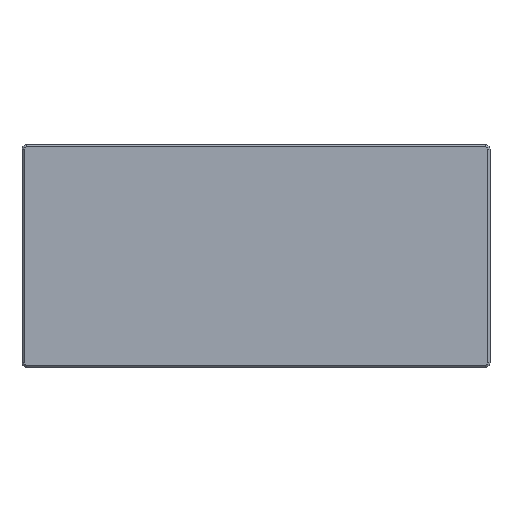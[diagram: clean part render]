
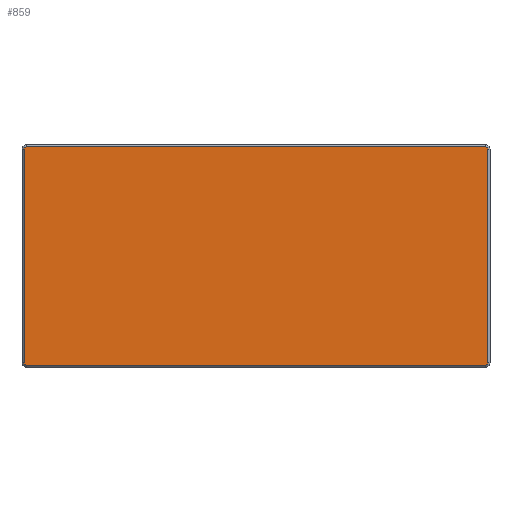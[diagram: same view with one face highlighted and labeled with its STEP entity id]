
A CAD part, front view. The second image highlights one B-rep face of the part: STEP entity #859.
In plain terms, the highlighted planar face has unit normal (0, -1, 0).
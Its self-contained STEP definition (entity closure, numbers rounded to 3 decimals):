
#7 = DIRECTION ( 'NONE',  ( 1., 0., 0. ) ) ;
#13 = DIRECTION ( 'NONE',  ( 0., -1., 0. ) ) ;
#31 = VERTEX_POINT ( 'NONE', #462 ) ;
#40 = ORIENTED_EDGE ( 'NONE', *, *, #134, .T. ) ;
#48 = EDGE_CURVE ( 'NONE', #1475, #105, #2187, .T. ) ;
#56 = VECTOR ( 'NONE', #342, 1000. ) ;
#64 = CARTESIAN_POINT ( 'NONE',  ( 10.4, 0., 4.8 ) ) ;
#105 = VERTEX_POINT ( 'NONE', #1706 ) ;
#134 = EDGE_CURVE ( 'NONE', #2072, #31, #592, .T. ) ;
#136 = EDGE_CURVE ( 'NONE', #514, #492, #143, .T. ) ;
#143 = LINE ( 'NONE', #662, #56 ) ;
#167 = CARTESIAN_POINT ( 'NONE',  ( -10.3, 0., 4.8 ) ) ;
#185 = VECTOR ( 'NONE', #977, 1000. ) ;
#221 = CARTESIAN_POINT ( 'NONE',  ( 10.3, 0., 4.8 ) ) ;
#279 = EDGE_CURVE ( 'NONE', #782, #2072, #743, .T. ) ;
#294 = EDGE_CURVE ( 'NONE', #31, #514, #304, .T. ) ;
#304 = CIRCLE ( 'NONE', #329, 0.1 ) ;
#315 = ORIENTED_EDGE ( 'NONE', *, *, #294, .T. ) ;
#329 = AXIS2_PLACEMENT_3D ( 'NONE', #1238, #13, #1407 ) ;
#342 = DIRECTION ( 'NONE',  ( 0., 0., 1. ) ) ;
#453 = ORIENTED_EDGE ( 'NONE', *, *, #1743, .T. ) ;
#462 = CARTESIAN_POINT ( 'NONE',  ( 10.3, 0., -4.9 ) ) ;
#492 = VERTEX_POINT ( 'NONE', #64 ) ;
#514 = VERTEX_POINT ( 'NONE', #1427 ) ;
#592 = LINE ( 'NONE', #684, #623 ) ;
#623 = VECTOR ( 'NONE', #7, 1000. ) ;
#655 = AXIS2_PLACEMENT_3D ( 'NONE', #167, #829, #837 ) ;
#662 = CARTESIAN_POINT ( 'NONE',  ( 10.4, 0., 0. ) ) ;
#684 = CARTESIAN_POINT ( 'NONE',  ( 0., 0., -4.9 ) ) ;
#717 = DIRECTION ( 'NONE',  ( 0., -1., 0. ) ) ;
#743 = CIRCLE ( 'NONE', #2211, 0.1 ) ;
#747 = CARTESIAN_POINT ( 'NONE',  ( -10.4, 0., 0. ) ) ;
#782 = VERTEX_POINT ( 'NONE', #1800 ) ;
#788 = EDGE_CURVE ( 'NONE', #1982, #782, #2005, .T. ) ;
#813 = PLANE ( 'NONE',  #1854 ) ;
#829 = DIRECTION ( 'NONE',  ( 0., -1., 0. ) ) ;
#837 = DIRECTION ( 'NONE',  ( 0., 0., 1. ) ) ;
#859 = ADVANCED_FACE ( 'NONE', ( #912 ), #813, .F. ) ;
#882 = CARTESIAN_POINT ( 'NONE',  ( -10.3, 0., -4.8 ) ) ;
#912 = FACE_OUTER_BOUND ( 'NONE', #1899, .T. ) ;
#977 = DIRECTION ( 'NONE',  ( -1., 0., 0. ) ) ;
#996 = ORIENTED_EDGE ( 'NONE', *, *, #136, .T. ) ;
#1032 = DIRECTION ( 'NONE',  ( 0., -1., 0. ) ) ;
#1058 = EDGE_CURVE ( 'NONE', #105, #1982, #1840, .T. ) ;
#1132 = CARTESIAN_POINT ( 'NONE',  ( -10.3, 0., -4.9 ) ) ;
#1238 = CARTESIAN_POINT ( 'NONE',  ( 10.3, 0., -4.8 ) ) ;
#1269 = ORIENTED_EDGE ( 'NONE', *, *, #788, .T. ) ;
#1292 = DIRECTION ( 'NONE',  ( 0., 0., -1. ) ) ;
#1407 = DIRECTION ( 'NONE',  ( 0., 0., 1. ) ) ;
#1427 = CARTESIAN_POINT ( 'NONE',  ( 10.4, 0., -4.8 ) ) ;
#1475 = VERTEX_POINT ( 'NONE', #1972 ) ;
#1502 = CARTESIAN_POINT ( 'NONE',  ( 0., 0., 4.9 ) ) ;
#1515 = DIRECTION ( 'NONE',  ( 0., 1., 0. ) ) ;
#1545 = AXIS2_PLACEMENT_3D ( 'NONE', #221, #717, #1925 ) ;
#1596 = ORIENTED_EDGE ( 'NONE', *, *, #48, .T. ) ;
#1679 = VECTOR ( 'NONE', #1292, 1000. ) ;
#1706 = CARTESIAN_POINT ( 'NONE',  ( -10.3, 0., 4.9 ) ) ;
#1743 = EDGE_CURVE ( 'NONE', #492, #1475, #2205, .T. ) ;
#1800 = CARTESIAN_POINT ( 'NONE',  ( -10.4, 0., -4.8 ) ) ;
#1840 = CIRCLE ( 'NONE', #655, 0.1 ) ;
#1854 = AXIS2_PLACEMENT_3D ( 'NONE', #2006, #1515, #2183 ) ;
#1880 = ORIENTED_EDGE ( 'NONE', *, *, #279, .T. ) ;
#1892 = CARTESIAN_POINT ( 'NONE',  ( -10.4, 0., 4.8 ) ) ;
#1899 = EDGE_LOOP ( 'NONE', ( #1269, #1880, #40, #315, #996, #453, #1596, #1911 ) ) ;
#1911 = ORIENTED_EDGE ( 'NONE', *, *, #1058, .T. ) ;
#1925 = DIRECTION ( 'NONE',  ( 0., 0., 1. ) ) ;
#1972 = CARTESIAN_POINT ( 'NONE',  ( 10.3, 0., 4.9 ) ) ;
#1982 = VERTEX_POINT ( 'NONE', #1892 ) ;
#2005 = LINE ( 'NONE', #747, #1679 ) ;
#2006 = CARTESIAN_POINT ( 'NONE',  ( 0., 0., 0. ) ) ;
#2072 = VERTEX_POINT ( 'NONE', #1132 ) ;
#2087 = DIRECTION ( 'NONE',  ( 0., 0., 1. ) ) ;
#2183 = DIRECTION ( 'NONE',  ( 0., 0., 1. ) ) ;
#2187 = LINE ( 'NONE', #1502, #185 ) ;
#2205 = CIRCLE ( 'NONE', #1545, 0.1 ) ;
#2211 = AXIS2_PLACEMENT_3D ( 'NONE', #882, #1032, #2087 ) ;
